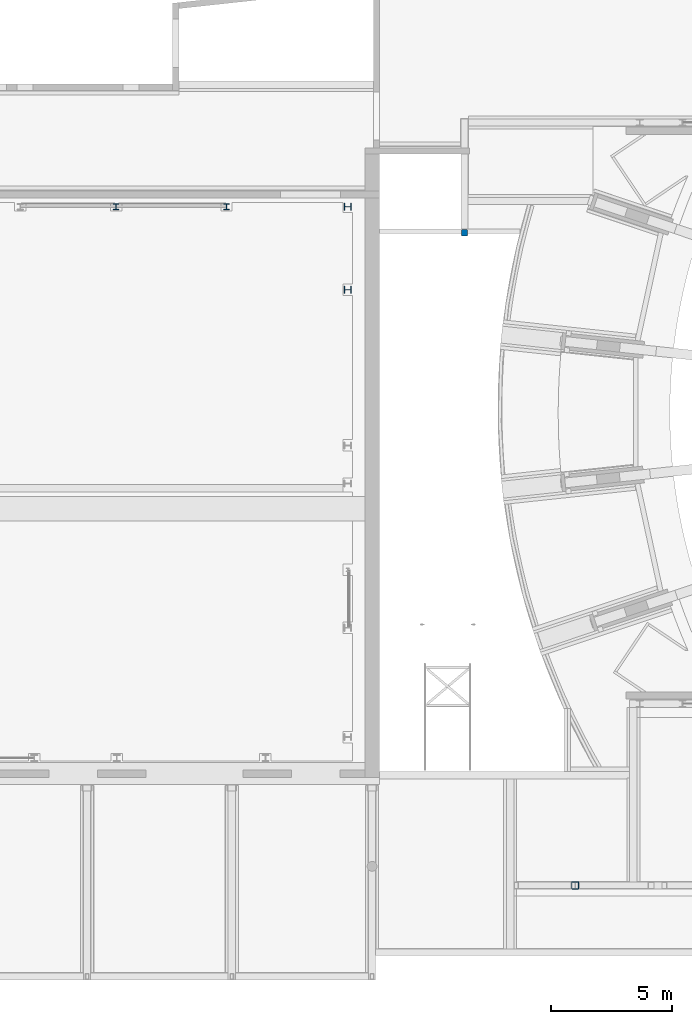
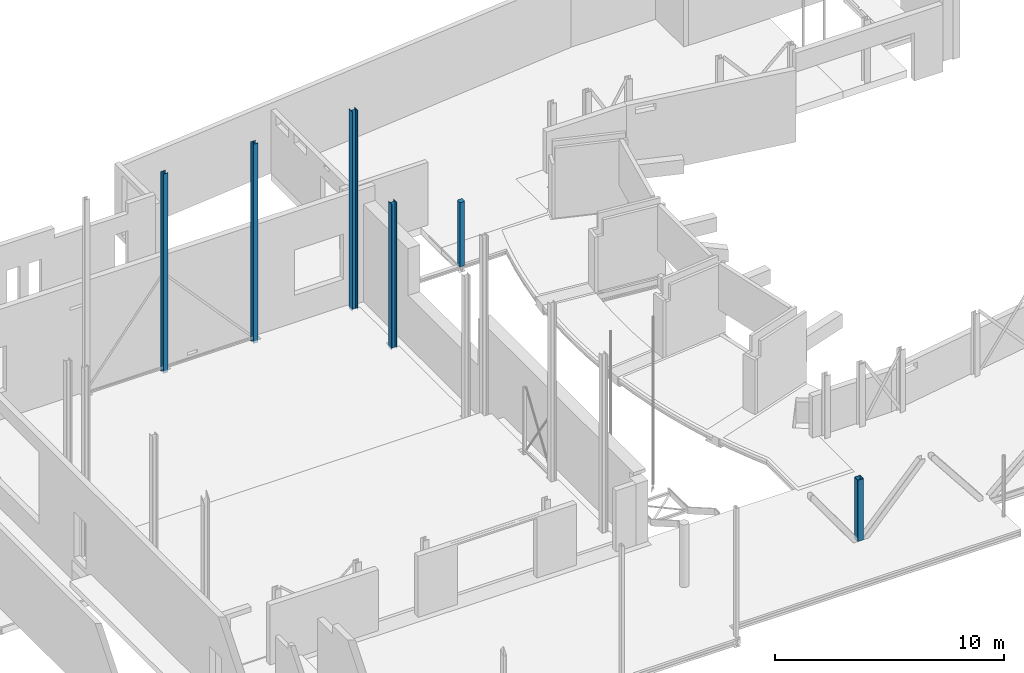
# One storey, part 5 of 37: 6 columns.
"""IFC2X3 building model written with IfcOpenShell, lengths in millimetres."""

import ifcopenshell
import ifcopenshell.guid

model = None  # the IFC model being written
_history = None  # IfcOwnerHistory: only IFC2X3 demands one
_inside = {}  # id of a spatial element -> (the spatial element, [elements in it])
_under = {}  # id of a project, library or spatial element -> (it, [spatial elements below it])
_declared = {}  # id of a project -> (the project, [libraries it declares])
_typed = {}  # id of a type object -> (the type object, [elements of that type])
_made_of = {}  # id of a material, layer set ... -> (it, [elements and type objects made of it])


def new_model(schema):
    """Start an empty IFC model of exactly this schema.

    Asked for "IFC4X3", IfcOpenShell would pick the latest addendum, in which some entities
    have other attributes; the version numbers below select the first issue.
    IFC2X3 requires an IfcOwnerHistory on every rooted entity: one is made here for all.
    """
    global model, _history
    if schema == "IFC4X3":
        model = ifcopenshell.file(schema_version=(4, 3, 0, 0))
    else:
        model = ifcopenshell.file(schema=schema)
    _inside.clear()
    _under.clear()
    _declared.clear()
    _typed.clear()
    _made_of.clear()
    _history = None
    if model.schema == "IFC2X3":
        org = make("IfcOrganization", Name="unknown")
        user = make(
            "IfcPersonAndOrganization",
            ThePerson=make("IfcPerson", FamilyName="unknown"),
            TheOrganization=org,
        )
        app = make(
            "IfcApplication",
            ApplicationDeveloper=org,
            Version="unknown",
            ApplicationFullName="unknown",
            ApplicationIdentifier="unknown",
        )
        _history = make(
            "IfcOwnerHistory",
            OwningUser=user,
            OwningApplication=app,
            ChangeAction="ADDED",
            CreationDate=0,
        )
    return model


def make(cls, **values):
    """One entity of the class cls with the attributes given. An attribute that is None is left unset."""
    return model.create_entity(
        cls, **{name: value for name, value in values.items() if value is not None}
    )


def entity(cls, *values):
    """Any entity or typed value of the class cls, its attributes in the order of the schema. None: left unset."""
    e = model.create_entity(cls)
    for i, value in enumerate(values):
        if value is not None:
            e[i] = value
    return e


def rooted(cls, **values):
    """An entity with a GlobalId (a new one), such as an element, a storey or a relation."""
    return make(cls, GlobalId=ifcopenshell.guid.new(), OwnerHistory=_history, **values)


def si_unit(unit_type, name, prefix=None):
    """IfcSIUnit, for example si_unit("LENGTHUNIT", "METRE", prefix="MILLI")."""
    return make("IfcSIUnit", UnitType=unit_type, Prefix=prefix, Name=name)


def converted_unit(unit_type, name, factor, base, dimensions=None, offset=None):
    """IfcConversionBasedUnit, such as the inch: factor (a typed value) times the base unit."""
    return make(
        "IfcConversionBasedUnit"
        if offset is None
        else "IfcConversionBasedUnitWithOffset",
        ConversionOffset=offset,
        Dimensions=None
        if dimensions is None
        else entity("IfcDimensionalExponents", *dimensions),
        UnitType=unit_type,
        Name=name,
        ConversionFactor=make(
            "IfcMeasureWithUnit", ValueComponent=factor, UnitComponent=base
        ),
    )


def derived_unit(unit_type, elements):
    """IfcDerivedUnit: a product of units, each with its exponent."""
    return make(
        "IfcDerivedUnit",
        Elements=[
            make("IfcDerivedUnitElement", Unit=unit, Exponent=power)
            for unit, power in elements
        ],
        UnitType=unit_type,
    )


def assignment(units):
    """IfcUnitAssignment: the units of a project."""
    return None if units is None else make("IfcUnitAssignment", Units=units)


def point(xyz):
    """IfcCartesianPoint."""
    return None if xyz is None else make("IfcCartesianPoint", Coordinates=xyz)


def direction(xyz):
    """IfcDirection."""
    return None if xyz is None else make("IfcDirection", DirectionRatios=xyz)


def frame(location, z_axis=None, x_axis=None):
    """IfcAxis2Placement3D, a coordinate frame: its origin and axes. An axis left out is left unset."""
    return make(
        "IfcAxis2Placement3D",
        Location=point(location),
        Axis=direction(z_axis),
        RefDirection=direction(x_axis),
    )


def frame_2d(location, x_axis=None):
    """IfcAxis2Placement2D, a coordinate frame in the plane: its origin and x axis."""
    return make(
        "IfcAxis2Placement2D", Location=point(location), RefDirection=direction(x_axis)
    )


def origin():
    """The frame at (0, 0, 0) with its axes left unset."""
    return frame((0.0, 0.0, 0.0))


def place(relative_to, where):
    """IfcLocalPlacement: puts the frame where relative to a parent placement (None: the world)."""
    return make(
        "IfcLocalPlacement", PlacementRelTo=relative_to, RelativePlacement=where
    )


def context(
    kind, dimensions, precision=None, world=None, true_north=None, identifier=None
):
    """IfcGeometricRepresentationContext, for example the 3D "Model" context."""
    return make(
        "IfcGeometricRepresentationContext",
        ContextIdentifier=identifier,
        ContextType=kind,
        CoordinateSpaceDimension=dimensions,
        Precision=precision,
        WorldCoordinateSystem=world,
        TrueNorth=true_north,
    )


def subcontext(parent, identifier, kind, view, scale=None):
    """IfcGeometricRepresentationSubContext, for example "Body" below "Model"."""
    return make(
        "IfcGeometricRepresentationSubContext",
        ContextIdentifier=identifier,
        ContextType=kind,
        ParentContext=parent,
        TargetScale=scale,
        TargetView=view,
    )


def project(units=None, contexts=None):
    """IfcProject with its units and contexts."""
    return rooted(
        "IfcProject",
        Name="project",
        RepresentationContexts=contexts,
        UnitsInContext=assignment(units),
    )


def spatial(cls, under=None, at=None, **own):
    """A site, building, storey or space (cls), placed at a placement, below another one or the project."""
    s = rooted(cls, ObjectPlacement=at, **own)
    if under is not None:
        _under.setdefault(under.id(), (under, []))[1].append(s)
    return s


def polyline(points):
    """IfcPolyline through the points."""
    return make("IfcPolyline", Points=[point(p) for p in points])


def circle_curve(where, radius):
    """IfcCircle in the frame where."""
    return make("IfcCircle", Position=where, Radius=radius)


def parameter(value):
    """IfcParameterValue: where a trimmed curve begins or ends, as a parameter of its basis curve."""
    return model.create_entity("IfcParameterValue", value)


def trimmed(basis, trim1, trim2, sense, master):
    """IfcTrimmedCurve: the piece of a basis curve between two trims."""
    return make(
        "IfcTrimmedCurve",
        BasisCurve=basis,
        Trim1=trim1,
        Trim2=trim2,
        SenseAgreement=sense,
        MasterRepresentation=master,
    )


def segment(curve, same_sense, transition):
    """IfcCompositeCurveSegment."""
    return make(
        "IfcCompositeCurveSegment",
        Transition=transition,
        SameSense=same_sense,
        ParentCurve=curve,
    )


def composite_curve(segments, self_intersect=None):
    """IfcCompositeCurve: segments joined end to end."""
    return make("IfcCompositeCurve", Segments=segments, SelfIntersect=self_intersect)


def profile(cls, at=None, kind="AREA", **sizes):
    """A parametric profile (cls). Its sizes go by their IFC names, for example OverallWidth=200.0."""
    return make(cls, ProfileType=kind, Position=at, **sizes)


def i_section(**sizes):
    """IfcIShapeProfileDef."""
    return profile("IfcIShapeProfileDef", **sizes)


def outline(outer, holes=None, kind="AREA"):
    """IfcArbitraryClosedProfileDef: a profile drawn as a closed curve; with holes, ...WithVoids."""
    if holes is None:
        return make("IfcArbitraryClosedProfileDef", ProfileType=kind, OuterCurve=outer)
    return make(
        "IfcArbitraryProfileDefWithVoids",
        ProfileType=kind,
        OuterCurve=outer,
        InnerCurves=holes,
    )


def extrude(swept, where, along, depth):
    """IfcExtrudedAreaSolid: the profile swept, set in the frame where, extruded along a direction by depth."""
    return make(
        "IfcExtrudedAreaSolid",
        SweptArea=swept,
        Position=where,
        ExtrudedDirection=direction(along),
        Depth=depth,
    )


def shape(context_of_items, identifier, shape_type, items):
    """IfcShapeRepresentation: the items that make up one representation, for example the "Body"."""
    return make(
        "IfcShapeRepresentation",
        ContextOfItems=context_of_items,
        RepresentationIdentifier=identifier,
        RepresentationType=shape_type,
        Items=items,
    )


def source(mapping_origin, context_of_items, identifier, shape_type, items):
    """IfcRepresentationMap: a shape defined once, which mapped items show again and again."""
    return make(
        "IfcRepresentationMap",
        MappingOrigin=mapping_origin,
        MappedRepresentation=shape(context_of_items, identifier, shape_type, items),
    )


def transform(
    local_origin,
    x_axis=None,
    y_axis=None,
    z_axis=None,
    scale=None,
    scale2=None,
    scale3=None,
    uniform=True,
):
    """IfcCartesianTransformationOperator3D, or its non-uniform kind. x_axis, y_axis, z_axis: its Axis1, 2, 3."""
    if uniform:
        return make(
            "IfcCartesianTransformationOperator3D",
            Axis1=direction(x_axis),
            Axis2=direction(y_axis),
            LocalOrigin=point(local_origin),
            Scale=scale,
            Axis3=direction(z_axis),
        )
    return make(
        "IfcCartesianTransformationOperator3DnonUniform",
        Axis1=direction(x_axis),
        Axis2=direction(y_axis),
        LocalOrigin=point(local_origin),
        Scale=scale,
        Axis3=direction(z_axis),
        Scale2=scale2,
        Scale3=scale3,
    )


def mapped(mapping_source, mapping_target):
    """IfcMappedItem: shows the shape of a source again, moved by a transform."""
    return make(
        "IfcMappedItem", MappingSource=mapping_source, MappingTarget=mapping_target
    )


def material(Name=None, Category=None):
    """IfcMaterial."""
    return make("IfcMaterial", Name=Name, Category=Category)


def material_list(materials):
    """IfcMaterialList."""
    return make("IfcMaterialList", Materials=materials)


def made_of(thing, what):
    """Note that an element or type object is made of a material, layer set ...; save() writes the relation."""
    if what is not None:
        _made_of.setdefault(what.id(), (what, []))[1].append(thing)
    return thing


def type_object(cls, material=None, **own):
    """A type object (cls), such as IfcWallType, which elements share."""
    return made_of(rooted(cls, **own), material)


def type_shapes(of_type, sources):
    """Give a type object the sources (RepresentationMaps) that its elements show as mapped items."""
    of_type.RepresentationMaps = sources


def element(
    cls,
    number,
    at=None,
    inside=None,
    cuts=None,
    type_object=None,
    material=None,
    context=None,
    identifier="Body",
    shape_type=None,
    held_by="IfcProductDefinitionShape",
    body=None,
    shapes=None,
    **own,
):
    """One element of the class cls, such as IfcWall. Its Tag is "e" and its number.

    at: its placement. inside: the storey or other place that contains it. cuts: it is an
    opening in that element (IfcRelVoidsElement). A single representation is given by context,
    identifier, shape_type and body (its items); several are given by shapes. held_by: the class
    of the entity that holds the representations. save() writes the other relations.
    """
    e = rooted(cls, Tag="e%d" % number, ObjectPlacement=at, **own)
    if body is not None:
        shapes = [shape(context, identifier, shape_type, body)]
    if shapes is not None:
        e.Representation = make(held_by, Representations=shapes)
    if inside is not None:
        _inside.setdefault(inside.id(), (inside, []))[1].append(e)
    if cuts is not None:
        rooted(
            "IfcRelVoidsElement", RelatingBuildingElement=cuts, RelatedOpeningElement=e
        )
    if type_object is not None:
        _typed.setdefault(type_object.id(), (type_object, []))[1].append(e)
    return made_of(e, material)


def aggregate(whole, parts):
    """IfcRelAggregates: a whole, such as a stair, and the parts it consists of."""
    return rooted("IfcRelAggregates", RelatingObject=whole, RelatedObjects=parts)


def save(model, path):
    """Write the relations noted so far, then the file.

    IfcRelAggregates (storeys below a building ...), IfcRelContainedInSpatialStructure (elements
    in a storey), IfcRelDefinesByType, IfcRelAssociatesMaterial and IfcRelDeclares: one each for
    every whole, place, type object, material and project.
    """
    for whole, parts in _under.values():
        aggregate(whole, parts)
    for where, things in _inside.values():
        rooted(
            "IfcRelContainedInSpatialStructure",
            RelatedElements=things,
            RelatingStructure=where,
        )
    for kind, things in _typed.values():
        rooted("IfcRelDefinesByType", RelatedObjects=things, RelatingType=kind)
    for what, things in _made_of.values():
        rooted("IfcRelAssociatesMaterial", RelatedObjects=things, RelatingMaterial=what)
    for by, libraries in _declared.values():
        rooted("IfcRelDeclares", RelatingContext=by, RelatedDefinitions=libraries)
    model.write(path)


model = new_model("IFC2X3")

# Units and contexts
model_context = context("Model", 3, precision=0.01, world=origin(), true_north=direction((6.12303176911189e-17, 1.0)))
body_context = subcontext(model_context, "Body", "Model", "MODEL_VIEW")
ifc_project = project(units=[si_unit("LENGTHUNIT", "METRE", prefix="MILLI"), si_unit("AREAUNIT", "SQUARE_METRE", prefix="MILLI"), si_unit("VOLUMEUNIT", "CUBIC_METRE"), converted_unit("PLANEANGLEUNIT", "DEGREE", entity("IfcRatioMeasure", 0.0174532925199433), si_unit("PLANEANGLEUNIT", "RADIAN"), dimensions=[0, 0, 0, 0, 0, 0, 0]), si_unit("MASSUNIT", "GRAM", prefix="KILO"), derived_unit("MASSDENSITYUNIT", [(si_unit("MASSUNIT", "GRAM", prefix="KILO"), 1), (si_unit("LENGTHUNIT", "METRE"), -3)]), derived_unit("MOMENTOFINERTIAUNIT", [(si_unit("LENGTHUNIT", "METRE"), 4)]), si_unit("TIMEUNIT", "SECOND"), si_unit("FREQUENCYUNIT", "HERTZ"), si_unit("THERMODYNAMICTEMPERATUREUNIT", "DEGREE_CELSIUS"), derived_unit("THERMALTRANSMITTANCEUNIT", [(si_unit("MASSUNIT", "GRAM", prefix="KILO"), 1), (si_unit("THERMODYNAMICTEMPERATUREUNIT", "KELVIN"), -1), (si_unit("TIMEUNIT", "SECOND"), -3)]), derived_unit("VOLUMETRICFLOWRATEUNIT", [(si_unit("LENGTHUNIT", "METRE"), 3), (si_unit("TIMEUNIT", "SECOND"), -1)]), si_unit("ELECTRICCURRENTUNIT", "AMPERE"), si_unit("ELECTRICVOLTAGEUNIT", "VOLT"), si_unit("POWERUNIT", "WATT"), si_unit("FORCEUNIT", "NEWTON", prefix="KILO"), si_unit("ILLUMINANCEUNIT", "LUX"), si_unit("LUMINOUSFLUXUNIT", "LUMEN"), si_unit("LUMINOUSINTENSITYUNIT", "CANDELA"), derived_unit("USERDEFINED", [(si_unit("MASSUNIT", "GRAM", prefix="KILO"), -1), (si_unit("LENGTHUNIT", "METRE"), -2), (si_unit("TIMEUNIT", "SECOND"), 3), (si_unit("LUMINOUSFLUXUNIT", "LUMEN"), 1)]), derived_unit("LINEARVELOCITYUNIT", [(si_unit("LENGTHUNIT", "METRE"), 1), (si_unit("TIMEUNIT", "SECOND"), -1)]), si_unit("PRESSUREUNIT", "PASCAL"), derived_unit("USERDEFINED", [(si_unit("LENGTHUNIT", "METRE"), -2), (si_unit("MASSUNIT", "GRAM", prefix="KILO"), 1), (si_unit("TIMEUNIT", "SECOND"), -2)]), derived_unit("LINEARFORCEUNIT", [(si_unit("MASSUNIT", "GRAM", prefix="KILO"), 1), (si_unit("LENGTHUNIT", "METRE"), 1), (si_unit("TIMEUNIT", "SECOND"), -2), (si_unit("LENGTHUNIT", "METRE"), -1)]), derived_unit("PLANARFORCEUNIT", [(si_unit("MASSUNIT", "GRAM", prefix="KILO"), 1), (si_unit("LENGTHUNIT", "METRE"), 1), (si_unit("TIMEUNIT", "SECOND"), -2), (si_unit("LENGTHUNIT", "METRE"), -2)])], contexts=[model_context])

# Site, building, storey
site_placement = place(None, origin())
site = spatial("IfcSite", under=ifc_project, at=site_placement, Name="Theater aan de Parade", CompositionType="ELEMENT")
building_placement = place(site_placement, origin())
building = spatial("IfcBuilding", under=site, at=building_placement, Name="Theater aan de Parade", CompositionType="ELEMENT")
storey_placement = place(building_placement, frame((0.0, 0.0, 5020.0)))
storey = spatial("IfcBuildingStorey", under=building, at=storey_placement, Name="01 eerste verdieping", CompositionType="ELEMENT", Elevation=5020.0)

# Columns
ifc_material_1 = material(Name="00_PBT_MAT_staal_S355")
column_type_1 = type_object("IfcColumnType", Name="28_PBT_SC_staal_H-profiel:S355_HE280B", PredefinedType="COLUMN", material=ifc_material_1)
shared_shape_1 = source(origin(), body_context, "Body", "SweptSolid", [
    extrude(i_section(OverallWidth=279.999999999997, OverallDepth=279.999999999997, WebThickness=10.4999999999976, FlangeThickness=18.0000000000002, FilletRadius=24.0000000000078, at=frame_2d((4.32009983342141e-12, -4.32009983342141e-12), x_axis=(1.0, 0.0))), frame((36153.8581300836, 40923.308327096, 3545.0), z_axis=(0.0, 0.0, 1.0), x_axis=(0.0, -1.0, 0.0)), (0.0, 0.0, 1.0), 10645.0),
])
type_shapes(column_type_1, [shared_shape_1])
column_1_placement = place(storey_placement, frame((0.0, 0.0, -5020.0)))
element("IfcColumn", 1, at=column_1_placement, inside=storey, type_object=column_type_1, material=ifc_material_1, Name="28_PBT_SC_staal_H-profiel:S355_HE280B", ObjectType="28_PBT_SC_staal_H-profiel:S355_HE280B", context=body_context, shape_type="MappedRepresentation", body=[
    mapped(shared_shape_1, transform((0.0, 0.0, 0.0), scale=1.0)),
])
column_type_2 = type_object("IfcColumnType", Name="28_PBT_SC_staal_H-profiel:S355_HE240B", PredefinedType="COLUMN", material=ifc_material_1)
shared_shape_2 = source(origin(), body_context, "Body", "SweptSolid", [
    extrude(i_section(OverallWidth=240.000000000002, OverallDepth=239.999999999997, WebThickness=10.0000000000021, FlangeThickness=16.9999999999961, FilletRadius=21.0000000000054, at=frame_2d((-1.29887212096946e-11, -2.16715534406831e-12), x_axis=(0.0, 1.0))), frame((26603.8570032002, 40923.308327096, 3545.0), z_axis=(0.0, 0.0, 1.0), x_axis=(0.0, -1.0, 0.0)), (0.0, 0.0, 1.0), 10645.0),
])
type_shapes(column_type_2, [shared_shape_2])
column_2_placement = place(storey_placement, frame((0.0, 0.0, -5020.0)))
element("IfcColumn", 2, at=column_2_placement, inside=storey, type_object=column_type_2, material=ifc_material_1, Name="28_PBT_SC_staal_H-profiel:S355_HE240B", ObjectType="28_PBT_SC_staal_H-profiel:S355_HE240B", context=body_context, shape_type="MappedRepresentation", body=[
    mapped(shared_shape_2, transform((0.0, 0.0, 0.0), scale=1.0)),
])
column_type_3 = type_object("IfcColumnType", Name="28_PBT_SC_staal_H-profiel:S355_HE240B", PredefinedType="COLUMN", material=ifc_material_1)
shared_shape_3 = source(origin(), body_context, "Body", "SweptSolid", [
    extrude(i_section(OverallWidth=240.000000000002, OverallDepth=239.999999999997, WebThickness=10.0000000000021, FlangeThickness=16.9999999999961, FilletRadius=21.0000000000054, at=frame_2d((-1.29887212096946e-11, 6.50146603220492e-12), x_axis=(0.0, 1.0))), frame((31153.8570032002, 40923.308327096, 3545.0), z_axis=(0.0, 0.0, 1.0), x_axis=(0.0, -1.0, 0.0)), (0.0, 0.0, 1.0), 10645.0),
])
type_shapes(column_type_3, [shared_shape_3])
column_3_placement = place(storey_placement, frame((0.0, 0.0, -5020.0)))
element("IfcColumn", 3, at=column_3_placement, inside=storey, type_object=column_type_3, material=ifc_material_1, Name="28_PBT_SC_staal_H-profiel:S355_HE240B", ObjectType="28_PBT_SC_staal_H-profiel:S355_HE240B", context=body_context, shape_type="MappedRepresentation", body=[
    mapped(shared_shape_3, transform((0.0, 0.0, 0.0), scale=1.0)),
])
column_type_4 = type_object("IfcColumnType", Name="28_PBT_SC_staal_H-profiel:S355_HE280B", PredefinedType="COLUMN", material=ifc_material_1)
shared_shape_4 = source(origin(), body_context, "Body", "SweptSolid", [
    extrude(i_section(OverallWidth=280.000000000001, OverallDepth=279.999999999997, WebThickness=10.5000000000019, FlangeThickness=18.0000000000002, FilletRadius=23.9999999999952, at=frame_2d((1.08286712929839e-11, -4.32009983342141e-12), x_axis=(1.0, 0.0))), frame((36153.8581300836, 37500.3143268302, 3545.0), z_axis=(0.0, 0.0, 1.0), x_axis=(0.0, -1.0, 0.0)), (0.0, 0.0, 1.0), 7804.99999999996),
])
type_shapes(column_type_4, [shared_shape_4])
column_4_placement = place(storey_placement, frame((0.0, 0.0, -5020.0)))
element("IfcColumn", 4, at=column_4_placement, inside=storey, type_object=column_type_4, material=ifc_material_1, Name="28_PBT_SC_staal_H-profiel:S355_HE280B", ObjectType="28_PBT_SC_staal_H-profiel:S355_HE280B", context=body_context, shape_type="MappedRepresentation", body=[
    mapped(shared_shape_4, transform((0.0, 0.0, 0.0), scale=1.0)),
])
column_type_5 = type_object("IfcColumnType", Name="28_PBT_SC_staal_koker:S355_K300x300x16", PredefinedType="COLUMN", material=ifc_material_1)
shared_shape_5 = source(origin(), body_context, "Body", "SweptSolid", [
    extrude(outline(composite_curve([segment(trimmed(circle_curve(frame_2d((-125.0, -125.0), x_axis=(1.0, 0.0)), 25.0), [parameter(180.0)], [parameter(270.0)], True, "PARAMETER"), True, "CONTINUOUS"), segment(polyline([(-125.0, -150.0), (125.0, -150.0)]), True, "CONTINUOUS"), segment(trimmed(circle_curve(frame_2d((125.0, -125.0), x_axis=(1.0, 0.0)), 25.0), [parameter(270.0)], [parameter(360.0)], True, "PARAMETER"), True, "CONTINUOUS"), segment(polyline([(150.0, -125.0), (150.0, 125.0)]), True, "CONTINUOUS"), segment(trimmed(circle_curve(frame_2d((125.0, 125.0), x_axis=(1.0, 0.0)), 25.0), [parameter(3.56222124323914e-13)], [parameter(90.0000000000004)], True, "PARAMETER"), True, "CONTINUOUS"), segment(polyline([(125.0, 150.0), (-125.0, 150.0)]), True, "CONTINUOUS"), segment(trimmed(circle_curve(frame_2d((-125.0, 125.0), x_axis=(1.0, 0.0)), 25.0), [parameter(90.0)], [parameter(180.0)], True, "PARAMETER"), True, "CONTINUOUS"), segment(polyline([(-150.0, 125.0), (-150.0, -125.0)]), True, "CONTINUOUS")], self_intersect=False), holes=[composite_curve([segment(trimmed(circle_curve(frame_2d((118.0, 118.0), x_axis=(1.0, 0.0)), 16.0), [parameter(0.0)], [parameter(90.0000000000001)], True, "PARAMETER"), False, "CONTINUOUS"), segment(polyline([(134.0, 118.0), (134.0, -118.0)]), True, "CONTINUOUS"), segment(trimmed(circle_curve(frame_2d((118.0, -118.0), x_axis=(1.0, 0.0)), 16.0), [parameter(270.0)], [parameter(359.999999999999)], True, "PARAMETER"), False, "CONTINUOUS"), segment(polyline([(118.0, -134.0), (-118.0, -134.0)]), True, "CONTINUOUS"), segment(trimmed(circle_curve(frame_2d((-118.0, -118.0), x_axis=(1.0, 0.0)), 16.0), [parameter(180.0)], [parameter(270.0)], True, "PARAMETER"), False, "CONTINUOUS"), segment(polyline([(-134.0, -118.0), (-134.0, 118.0)]), True, "CONTINUOUS"), segment(trimmed(circle_curve(frame_2d((-118.0, 118.0), x_axis=(1.0, 0.0)), 16.0), [parameter(90.0)], [parameter(180.0)], True, "PARAMETER"), False, "CONTINUOUS"), segment(polyline([(-118.0, 134.0), (118.0, 134.0)]), True, "CONTINUOUS")], self_intersect=False)]), frame((45525.0, 12955.0, 4940.0), z_axis=(0.0, 0.0, 1.0), x_axis=(0.0, -1.0, 0.0)), (0.0, 0.0, 1.0), 3270.00000000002),
])
type_shapes(column_type_5, [shared_shape_5])
column_5_placement = place(storey_placement, frame((0.0, 0.0, -5020.0)))
element("IfcColumn", 5, at=column_5_placement, inside=storey, type_object=column_type_5, material=ifc_material_1, Name="28_PBT_SC_staal_koker:S355_K300x300x16", ObjectType="28_PBT_SC_staal_koker:S355_K300x300x16", context=body_context, shape_type="MappedRepresentation", body=[
    mapped(shared_shape_5, transform((0.0, 0.0, 0.0), scale=1.0)),
])
ifc_material_2 = material(Name="00_PBT_MAT_beton t.p.g._C40/50")
ifc_material_list_1 = material_list([ifc_material_2, ifc_material_1])
ifc_material_list_2 = material_list([ifc_material_2, ifc_material_1])
column_type_6 = type_object("IfcColumnType", Name="28_PBT_SC_staal_koker:S355_K250x250x20_GB_C40/50", PredefinedType="COLUMN", material=ifc_material_list_2)
shared_shape_6 = source(origin(), body_context, "Body", "SweptSolid", [
    extrude(outline(composite_curve([segment(polyline([(-85.0, -105.0), (85.0, -105.0)]), True, "CONTINUOUS"), segment(trimmed(circle_curve(frame_2d((85.0, -85.0), x_axis=(-1.0, 0.0)), 20.0), [parameter(90.0000000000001)], [parameter(180.0)], True, "PARAMETER"), True, "CONTINUOUS"), segment(polyline([(105.0, -85.0), (105.0, 85.0)]), True, "CONTINUOUS"), segment(trimmed(circle_curve(frame_2d((85.0, 85.0), x_axis=(-1.0, 0.0)), 20.0), [parameter(180.0)], [parameter(269.999999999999)], True, "PARAMETER"), True, "CONTINUOUS"), segment(polyline([(85.0, 105.0), (-85.0, 105.0)]), True, "CONTINUOUS"), segment(trimmed(circle_curve(frame_2d((-85.0, 85.0), x_axis=(-1.0, 0.0)), 20.0), [parameter(270.0)], [parameter(1.01777749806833e-13)], True, "PARAMETER"), True, "CONTINUOUS"), segment(polyline([(-105.0, 85.0), (-105.0, -85.0)]), True, "CONTINUOUS"), segment(trimmed(circle_curve(frame_2d((-85.0, -85.0), x_axis=(-1.0, 0.0)), 20.0), [parameter(0.0)], [parameter(90.0000000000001)], True, "PARAMETER"), True, "CONTINUOUS")], self_intersect=False)), frame((40963.8581275, 39850.0, 4860.0)), (0.0, 0.0, 1.0), 3430.0),
    extrude(outline(composite_curve([segment(trimmed(circle_curve(frame_2d((-100.0, -100.0), x_axis=(1.0, 0.0)), 25.0), [parameter(180.0)], [parameter(270.0)], True, "PARAMETER"), True, "CONTINUOUS"), segment(polyline([(-100.0, -125.0), (100.0, -125.0)]), True, "CONTINUOUS"), segment(trimmed(circle_curve(frame_2d((100.0, -100.0), x_axis=(1.0, 0.0)), 25.0), [parameter(270.0)], [parameter(0.0)], True, "PARAMETER"), True, "CONTINUOUS"), segment(polyline([(125.0, -100.0), (125.0, 100.0)]), True, "CONTINUOUS"), segment(trimmed(circle_curve(frame_2d((100.0, 100.0), x_axis=(1.0, 0.0)), 25.0), [parameter(3.56222124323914e-13)], [parameter(90.0000000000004)], True, "PARAMETER"), True, "CONTINUOUS"), segment(polyline([(100.0, 125.0), (-100.0, 125.0)]), True, "CONTINUOUS"), segment(trimmed(circle_curve(frame_2d((-100.0, 100.0), x_axis=(1.0, 0.0)), 25.0), [parameter(90.0)], [parameter(180.0)], True, "PARAMETER"), True, "CONTINUOUS"), segment(polyline([(-125.0, 100.0), (-125.0, -100.0)]), True, "CONTINUOUS")], self_intersect=False), holes=[composite_curve([segment(trimmed(circle_curve(frame_2d((85.0, 85.0), x_axis=(1.0, 0.0)), 20.0), [parameter(0.0)], [parameter(90.0000000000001)], True, "PARAMETER"), False, "CONTINUOUS"), segment(polyline([(105.0, 85.0), (105.0, -85.0)]), True, "CONTINUOUS"), segment(trimmed(circle_curve(frame_2d((85.0, -85.0), x_axis=(1.0, 0.0)), 20.0), [parameter(270.0)], [parameter(360.0)], True, "PARAMETER"), False, "CONTINUOUS"), segment(polyline([(85.0, -105.0), (-85.0, -105.0)]), True, "CONTINUOUS"), segment(trimmed(circle_curve(frame_2d((-85.0, -85.0), x_axis=(1.0, 0.0)), 20.0), [parameter(180.0)], [parameter(270.0)], True, "PARAMETER"), False, "CONTINUOUS"), segment(polyline([(-105.0, -85.0), (-105.0, 85.0)]), True, "CONTINUOUS"), segment(trimmed(circle_curve(frame_2d((-85.0, 85.0), x_axis=(1.0, 0.0)), 20.0), [parameter(89.9999999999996)], [parameter(180.0)], True, "PARAMETER"), False, "CONTINUOUS"), segment(polyline([(-85.0, 105.0), (85.0, 105.0)]), True, "CONTINUOUS")], self_intersect=False)]), frame((40963.8581275, 39850.0, 4860.0)), (0.0, 0.0, 1.0), 3430.0),
])
type_shapes(column_type_6, [shared_shape_6])
column_6_placement = place(storey_placement, frame((0.0, 0.0, -5020.0)))
element("IfcColumn", 6, at=column_6_placement, inside=storey, type_object=column_type_6, material=ifc_material_list_1, Name="28_PBT_SC_staal_koker:S355_K250x250x20_GB_C40/50", ObjectType="28_PBT_SC_staal_koker:S355_K250x250x20_GB_C40/50", context=body_context, shape_type="MappedRepresentation", body=[
    mapped(shared_shape_6, transform((0.0, 0.0, 0.0), scale=1.0)),
])

save(model, "model.ifc")
